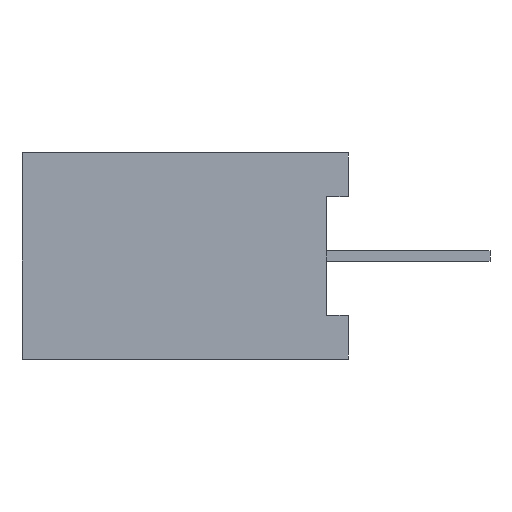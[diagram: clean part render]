
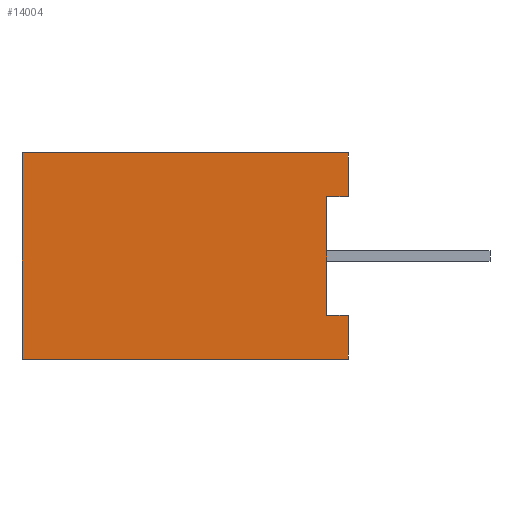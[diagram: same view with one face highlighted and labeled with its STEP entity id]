
A CAD part, left-side view. The second image highlights one B-rep face of the part: STEP entity #14004.
In plain terms, the highlighted planar face has unit normal (-1, 0, 0).
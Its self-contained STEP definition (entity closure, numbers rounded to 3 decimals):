
#13908 = VERTEX_POINT ( 'NONE', #41018 ) ;
#13951 = EDGE_CURVE ( 'NONE', #13952, #13953, #41134, .T. ) ;
#13952 = VERTEX_POINT ( 'NONE', #41125 ) ;
#13953 = VERTEX_POINT ( 'NONE', #41124 ) ;
#13961 = EDGE_CURVE ( 'NONE', #13962, #13908, #41113, .T. ) ;
#13962 = VERTEX_POINT ( 'NONE', #41109 ) ;
#13972 = EDGE_CURVE ( 'NONE', #13973, #13962, #41156, .T. ) ;
#13973 = VERTEX_POINT ( 'NONE', #41152 ) ;
#13986 = VERTEX_POINT ( 'NONE', #41139 ) ;
#13987 = ORIENTED_EDGE ( 'NONE', *, *, #13988, .F. ) ;
#13988 = EDGE_CURVE ( 'NONE', #13952, #13986, #41138, .T. ) ;
#13989 = ORIENTED_EDGE ( 'NONE', *, *, #13951, .T. ) ;
#13990 = ORIENTED_EDGE ( 'NONE', *, *, #14021, .T. ) ;
#13991 = ORIENTED_EDGE ( 'NONE', *, *, #14002, .T. ) ;
#13992 = ORIENTED_EDGE ( 'NONE', *, *, #13972, .T. ) ;
#14002 = EDGE_CURVE ( 'NONE', #14019, #13973, #41183, .T. ) ;
#14004 = ADVANCED_FACE ( 'NONE', ( #41179 ), #41177, .F. ) ;
#14005 = EDGE_LOOP ( 'NONE', ( #14006, #14007, #14062, #13987, #13989, #13990, #13991, #13992 ) ) ;
#14006 = ORIENTED_EDGE ( 'NONE', *, *, #13961, .T. ) ;
#14007 = ORIENTED_EDGE ( 'NONE', *, *, #14008, .F. ) ;
#14008 = EDGE_CURVE ( 'NONE', #14009, #13908, #41178, .T. ) ;
#14009 = VERTEX_POINT ( 'NONE', #41234 ) ;
#14019 = VERTEX_POINT ( 'NONE', #41214 ) ;
#14021 = EDGE_CURVE ( 'NONE', #13953, #14019, #41213, .T. ) ;
#14062 = ORIENTED_EDGE ( 'NONE', *, *, #14063, .F. ) ;
#14063 = EDGE_CURVE ( 'NONE', #13986, #14009, #41289, .T. ) ;
#41018 = CARTESIAN_POINT ( 'NONE',  ( -9.55, -0.508, -1.384 ) ) ;
#41109 = CARTESIAN_POINT ( 'NONE',  ( -9.55, -0.508, -2.4 ) ) ;
#41110 = DIRECTION ( 'NONE',  ( 0., 0., 1. ) ) ;
#41111 = VECTOR ( 'NONE', #41110, 1000. ) ;
#41112 = CARTESIAN_POINT ( 'NONE',  ( -9.55, -0.508, 2.4 ) ) ;
#41113 = LINE ( 'NONE', #41112, #41111 ) ;
#41124 = CARTESIAN_POINT ( 'NONE',  ( -9.55, -0.508, 2.4 ) ) ;
#41125 = CARTESIAN_POINT ( 'NONE',  ( -9.55, -0.508, 1.384 ) ) ;
#41126 = DIRECTION ( 'NONE',  ( 0., 0., 1. ) ) ;
#41127 = VECTOR ( 'NONE', #41126, 1000. ) ;
#41128 = CARTESIAN_POINT ( 'NONE',  ( -9.55, -0.508, 2.4 ) ) ;
#41134 = LINE ( 'NONE', #41128, #41127 ) ;
#41138 = LINE ( 'NONE', #41201, #41200 ) ;
#41139 = CARTESIAN_POINT ( 'NONE',  ( -9.55, 0., 1.384 ) ) ;
#41152 = CARTESIAN_POINT ( 'NONE',  ( -9.55, 7.092, -2.4 ) ) ;
#41153 = DIRECTION ( 'NONE',  ( 0., -1., 0. ) ) ;
#41154 = VECTOR ( 'NONE', #41153, 1000. ) ;
#41155 = CARTESIAN_POINT ( 'NONE',  ( -9.55, -0.508, -2.4 ) ) ;
#41156 = LINE ( 'NONE', #41155, #41154 ) ;
#41170 = DIRECTION ( 'NONE',  ( 0., -1., 0. ) ) ;
#41171 = VECTOR ( 'NONE', #41170, 1000. ) ;
#41172 = CARTESIAN_POINT ( 'NONE',  ( -9.55, -0.508, -1.384 ) ) ;
#41173 = DIRECTION ( 'NONE',  ( 0., 0., -1. ) ) ;
#41174 = DIRECTION ( 'NONE',  ( 1., 0., 0. ) ) ;
#41175 = CARTESIAN_POINT ( 'NONE',  ( -9.55, 7.092, -2.4 ) ) ;
#41176 = AXIS2_PLACEMENT_3D ( 'NONE', #41175, #41174, #41173 ) ;
#41177 = PLANE ( 'NONE',  #41176 ) ;
#41178 = LINE ( 'NONE', #41172, #41171 ) ;
#41179 = FACE_OUTER_BOUND ( 'NONE', #14005, .T. ) ;
#41180 = DIRECTION ( 'NONE',  ( 0., 0., -1. ) ) ;
#41181 = VECTOR ( 'NONE', #41180, 1000. ) ;
#41182 = CARTESIAN_POINT ( 'NONE',  ( -9.55, 7.092, -2.4 ) ) ;
#41183 = LINE ( 'NONE', #41182, #41181 ) ;
#41199 = DIRECTION ( 'NONE',  ( 0., 1., 0. ) ) ;
#41200 = VECTOR ( 'NONE', #41199, 1000. ) ;
#41201 = CARTESIAN_POINT ( 'NONE',  ( -9.55, -0.508, 1.384 ) ) ;
#41210 = DIRECTION ( 'NONE',  ( 0., 1., 0. ) ) ;
#41211 = VECTOR ( 'NONE', #41210, 1000. ) ;
#41212 = CARTESIAN_POINT ( 'NONE',  ( -9.55, 7.092, 2.4 ) ) ;
#41213 = LINE ( 'NONE', #41212, #41211 ) ;
#41214 = CARTESIAN_POINT ( 'NONE',  ( -9.55, 7.092, 2.4 ) ) ;
#41234 = CARTESIAN_POINT ( 'NONE',  ( -9.55, 0., -1.384 ) ) ;
#41286 = DIRECTION ( 'NONE',  ( 0., 0., -1. ) ) ;
#41287 = VECTOR ( 'NONE', #41286, 1000. ) ;
#41288 = CARTESIAN_POINT ( 'NONE',  ( -9.55, 0., -1.384 ) ) ;
#41289 = LINE ( 'NONE', #41288, #41287 ) ;
